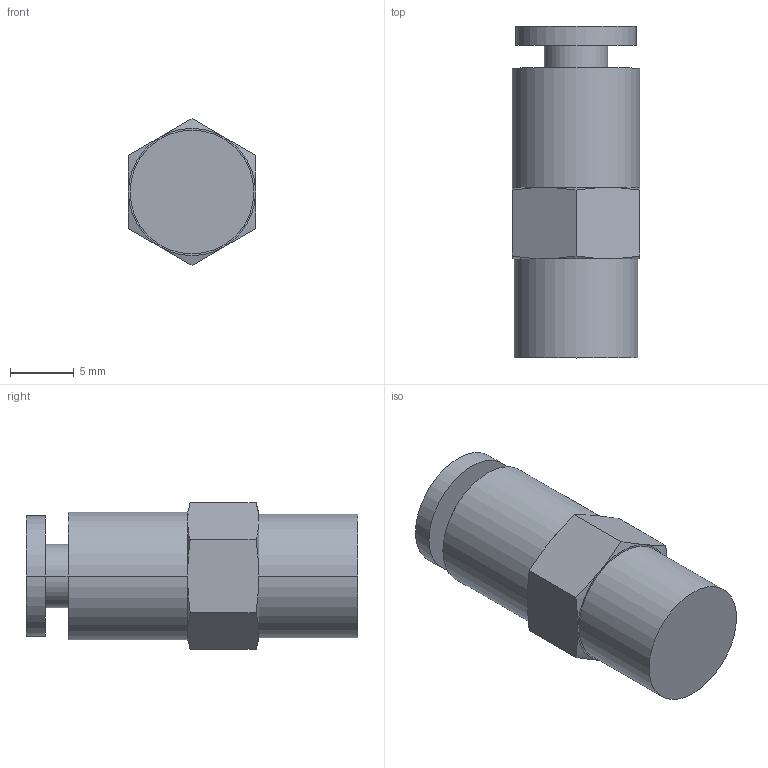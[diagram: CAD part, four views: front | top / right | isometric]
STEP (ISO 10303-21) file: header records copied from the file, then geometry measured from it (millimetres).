
FILE_DESCRIPTION( ( '' ), '1' );
FILE_NAME( 'G:/SMC狟婥/KCH04-01S.stp', '2023-03-08T05:59:31', ( '' ), ( '' ), ' ', ' ', ' ' );
FILE_SCHEMA( ( 'CONFIG_CONTROL_DESIGN' ) );
Length unit declared in the file: millimetre
Products named in the file (1): 1
Bounding box: 10 x 26.1 x 11.55 mm (x, y, z)
Volume: 1717.5 mm3; surface area: 1298.3 mm2
Topology: 1 solids, 1 shells, 34 faces, 70 edges, 42 vertices
Faces by surface type: plane 12, cone 12, cylinder 10
Entity records: 912 total; most frequent: CARTESIAN_POINT 195, DIRECTION 146, ORIENTED_EDGE 140, EDGE_CURVE 70, AXIS2_PLACEMENT_3D 65, VERTEX_POINT 42, EDGE_LOOP 38, ADVANCED_FACE 34
